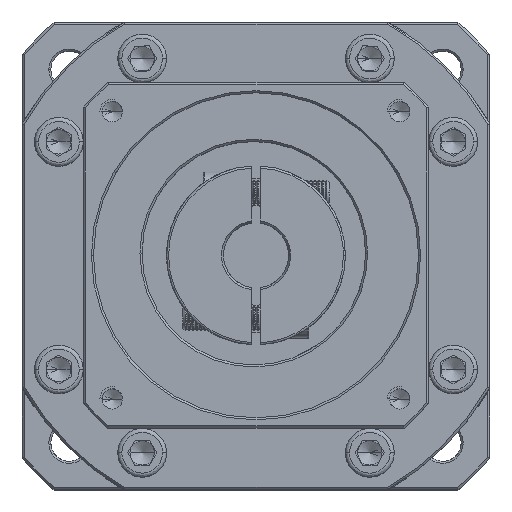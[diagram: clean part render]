
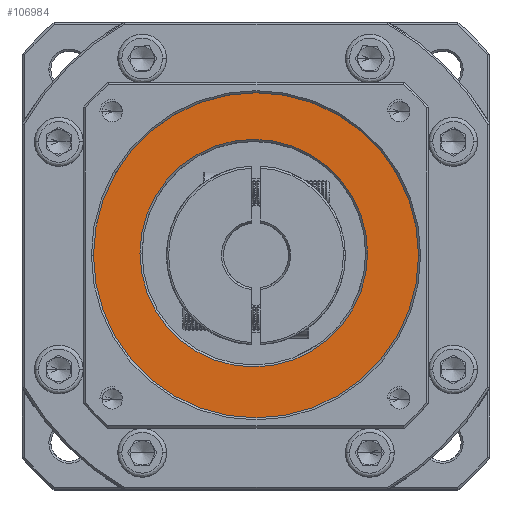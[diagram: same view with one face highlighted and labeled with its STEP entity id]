
A CAD part, top view. The second image highlights one B-rep face of the part: STEP entity #106984.
In plain terms, the highlighted planar face has unit normal (0, 0, 1).
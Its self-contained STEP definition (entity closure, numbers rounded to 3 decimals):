
#631 = EDGE_CURVE ( 'NONE', #105469, #70580, #39504, .T. ) ;
#2537 = CARTESIAN_POINT ( 'NONE',  ( 57.945, -51.453, -19.608 ) ) ;
#3592 = AXIS2_PLACEMENT_3D ( 'NONE', #113965, #60684, #7229 ) ;
#6121 = DIRECTION ( 'NONE',  ( 1., 0., 0. ) ) ;
#6947 = EDGE_CURVE ( 'NONE', #28212, #106812, #41328, .T. ) ;
#7229 = DIRECTION ( 'NONE',  ( 1., 0., 0. ) ) ;
#9542 = ORIENTED_EDGE ( 'NONE', *, *, #113768, .T. ) ;
#10266 = CARTESIAN_POINT ( 'NONE',  ( 57.945, -51.453, -19.608 ) ) ;
#11404 = DIRECTION ( 'NONE',  ( 1., 0., 0. ) ) ;
#17479 = ORIENTED_EDGE ( 'NONE', *, *, #6947, .T. ) ;
#19277 = DIRECTION ( 'NONE',  ( 1., 0., 0. ) ) ;
#22667 = CARTESIAN_POINT ( 'NONE',  ( 29.404, -50.919, -19.608 ) ) ;
#28212 = VERTEX_POINT ( 'NONE', #22667 ) ;
#33689 = CIRCLE ( 'NONE', #3592, 28. ) ;
#33867 = DIRECTION ( 'NONE',  ( 0., 0., 1. ) ) ;
#35749 = EDGE_LOOP ( 'NONE', ( #41034, #9542 ) ) ;
#39504 = CIRCLE ( 'NONE', #90953, 40. ) ;
#40372 = CARTESIAN_POINT ( 'NONE',  ( 17.945, -51.453, -19.608 ) ) ;
#41034 = ORIENTED_EDGE ( 'NONE', *, *, #631, .T. ) ;
#41328 = CIRCLE ( 'NONE', #42980, 28. ) ;
#42980 = AXIS2_PLACEMENT_3D ( 'NONE', #112845, #59557, #6121 ) ;
#51426 = PLANE ( 'NONE',  #107392 ) ;
#52498 = CARTESIAN_POINT ( 'NONE',  ( 97.945, -51.453, -19.608 ) ) ;
#54252 = FACE_BOUND ( 'NONE', #65802, .T. ) ;
#59557 = DIRECTION ( 'NONE',  ( 0., 0., -1. ) ) ;
#60684 = DIRECTION ( 'NONE',  ( 0., 0., -1. ) ) ;
#64914 = DIRECTION ( 'NONE',  ( 0., 0., 1. ) ) ;
#65802 = EDGE_LOOP ( 'NONE', ( #76926, #17479 ) ) ;
#70580 = VERTEX_POINT ( 'NONE', #40372 ) ;
#72653 = DIRECTION ( 'NONE',  ( 0., 0., 1. ) ) ;
#74034 = AXIS2_PLACEMENT_3D ( 'NONE', #2537, #64914, #11404 ) ;
#76926 = ORIENTED_EDGE ( 'NONE', *, *, #87355, .T. ) ;
#77957 = FACE_OUTER_BOUND ( 'NONE', #35749, .T. ) ;
#87310 = CARTESIAN_POINT ( 'NONE',  ( 57.945, -51.453, -19.608 ) ) ;
#87355 = EDGE_CURVE ( 'NONE', #106812, #28212, #33689, .T. ) ;
#90953 = AXIS2_PLACEMENT_3D ( 'NONE', #10266, #72653, #19277 ) ;
#95342 = CIRCLE ( 'NONE', #74034, 40. ) ;
#96276 = DIRECTION ( 'NONE',  ( 1., 0., 0. ) ) ;
#105469 = VERTEX_POINT ( 'NONE', #52498 ) ;
#106812 = VERTEX_POINT ( 'NONE', #111410 ) ;
#106984 = ADVANCED_FACE ( 'NONE', ( #77957, #54252 ), #51426, .T. ) ;
#107392 = AXIS2_PLACEMENT_3D ( 'NONE', #87310, #33867, #96276 ) ;
#111410 = CARTESIAN_POINT ( 'NONE',  ( 85.404, -50.919, -19.608 ) ) ;
#112845 = CARTESIAN_POINT ( 'NONE',  ( 57.404, -50.919, -19.608 ) ) ;
#113768 = EDGE_CURVE ( 'NONE', #70580, #105469, #95342, .T. ) ;
#113965 = CARTESIAN_POINT ( 'NONE',  ( 57.404, -50.919, -19.608 ) ) ;
